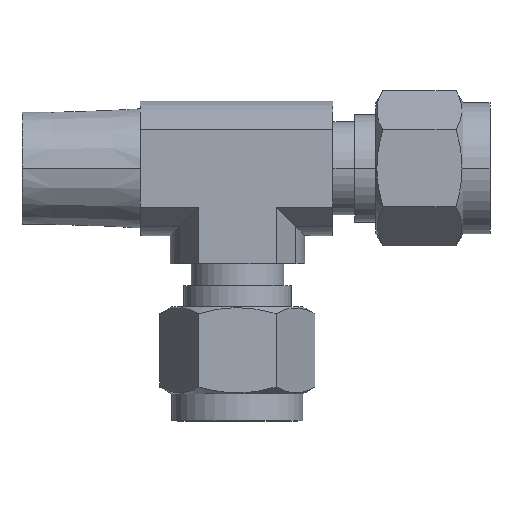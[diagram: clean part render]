
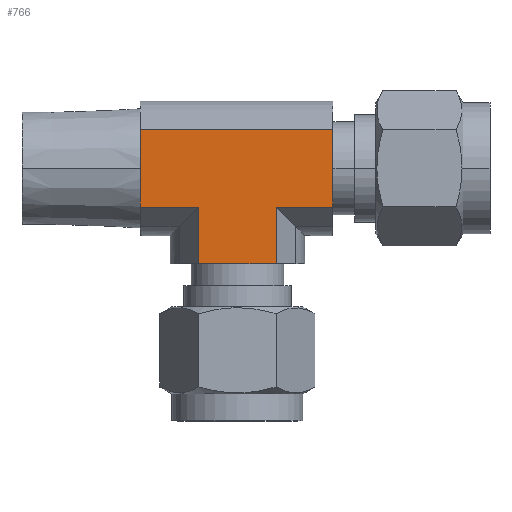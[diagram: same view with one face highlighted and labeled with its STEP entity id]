
A CAD part, top view. The second image highlights one B-rep face of the part: STEP entity #766.
In plain terms, the highlighted planar face has unit normal (0, 0, 1).
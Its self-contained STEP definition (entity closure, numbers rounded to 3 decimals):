
#285 = EDGE_CURVE ( 'NONE', #302, #286, #2358, .T. ) ;
#286 = VERTEX_POINT ( 'NONE', #2579 ) ;
#302 = VERTEX_POINT ( 'NONE', #2555 ) ;
#360 = EDGE_CURVE ( 'NONE', #286, #707, #1368, .T. ) ;
#365 = VERTEX_POINT ( 'NONE', #1492 ) ;
#398 = VERTEX_POINT ( 'NONE', #1522 ) ;
#400 = EDGE_CURVE ( 'NONE', #398, #483, #1521, .T. ) ;
#431 = VERTEX_POINT ( 'NONE', #1798 ) ;
#433 = EDGE_CURVE ( 'NONE', #431, #434, #1797, .T. ) ;
#434 = VERTEX_POINT ( 'NONE', #1793 ) ;
#483 = VERTEX_POINT ( 'NONE', #1819 ) ;
#595 = ORIENTED_EDGE ( 'NONE', *, *, #433, .F. ) ;
#596 = ORIENTED_EDGE ( 'NONE', *, *, #597, .T. ) ;
#597 = EDGE_CURVE ( 'NONE', #431, #707, #2039, .T. ) ;
#599 = EDGE_CURVE ( 'NONE', #365, #398, #2035, .T. ) ;
#707 = VERTEX_POINT ( 'NONE', #1924 ) ;
#764 = EDGE_CURVE ( 'NONE', #302, #483, #2135, .T. ) ;
#766 = ADVANCED_FACE ( 'NONE', ( #2131 ), #2129, .F. ) ;
#767 = EDGE_LOOP ( 'NONE', ( #768, #769, #595, #596, #771, #772, #773, #774 ) ) ;
#768 = ORIENTED_EDGE ( 'NONE', *, *, #599, .F. ) ;
#769 = ORIENTED_EDGE ( 'NONE', *, *, #770, .F. ) ;
#770 = EDGE_CURVE ( 'NONE', #434, #365, #2130, .T. ) ;
#771 = ORIENTED_EDGE ( 'NONE', *, *, #360, .F. ) ;
#772 = ORIENTED_EDGE ( 'NONE', *, *, #285, .F. ) ;
#773 = ORIENTED_EDGE ( 'NONE', *, *, #764, .T. ) ;
#774 = ORIENTED_EDGE ( 'NONE', *, *, #400, .F. ) ;
#1360 = DIRECTION ( 'NONE',  ( -1., 0., 0. ) ) ;
#1361 = VECTOR ( 'NONE', #1360, 1000. ) ;
#1362 = CARTESIAN_POINT ( 'NONE',  ( 11.3, -4.59, 7.95 ) ) ;
#1368 = LINE ( 'NONE', #1362, #1361 ) ;
#1492 = CARTESIAN_POINT ( 'NONE',  ( -4.59, -4.59, 7.95 ) ) ;
#1518 = DIRECTION ( 'NONE',  ( 0., 1., 0. ) ) ;
#1519 = VECTOR ( 'NONE', #1518, 1000. ) ;
#1520 = CARTESIAN_POINT ( 'NONE',  ( -11.5, -4.59, 7.95 ) ) ;
#1521 = LINE ( 'NONE', #1520, #1519 ) ;
#1522 = CARTESIAN_POINT ( 'NONE',  ( -11.5, -4.59, 7.95 ) ) ;
#1793 = CARTESIAN_POINT ( 'NONE',  ( -4.59, -11.3, 7.95 ) ) ;
#1794 = DIRECTION ( 'NONE',  ( -1., 0., 0. ) ) ;
#1795 = VECTOR ( 'NONE', #1794, 1000. ) ;
#1796 = CARTESIAN_POINT ( 'NONE',  ( 4.59, -11.3, 7.95 ) ) ;
#1797 = LINE ( 'NONE', #1796, #1795 ) ;
#1798 = CARTESIAN_POINT ( 'NONE',  ( 4.59, -11.3, 7.95 ) ) ;
#1819 = CARTESIAN_POINT ( 'NONE',  ( -11.5, 4.59, 7.95 ) ) ;
#1924 = CARTESIAN_POINT ( 'NONE',  ( 4.59, -4.59, 7.95 ) ) ;
#2032 = DIRECTION ( 'NONE',  ( -1., 0., 0. ) ) ;
#2033 = VECTOR ( 'NONE', #2032, 1000. ) ;
#2034 = CARTESIAN_POINT ( 'NONE',  ( 11.3, -4.59, 7.95 ) ) ;
#2035 = LINE ( 'NONE', #2034, #2033 ) ;
#2036 = DIRECTION ( 'NONE',  ( 0., 1., 0. ) ) ;
#2037 = VECTOR ( 'NONE', #2036, 1000. ) ;
#2038 = CARTESIAN_POINT ( 'NONE',  ( 4.59, -11.3, 7.95 ) ) ;
#2039 = LINE ( 'NONE', #2038, #2037 ) ;
#2122 = DIRECTION ( 'NONE',  ( 0., 1., 0. ) ) ;
#2123 = VECTOR ( 'NONE', #2122, 1000. ) ;
#2124 = CARTESIAN_POINT ( 'NONE',  ( -4.59, -11.3, 7.95 ) ) ;
#2125 = DIRECTION ( 'NONE',  ( 0., 1., 0. ) ) ;
#2126 = DIRECTION ( 'NONE',  ( 0., 0., -1. ) ) ;
#2127 = CARTESIAN_POINT ( 'NONE',  ( 11.3, 4.59, 7.95 ) ) ;
#2128 = AXIS2_PLACEMENT_3D ( 'NONE', #2127, #2126, #2125 ) ;
#2129 = PLANE ( 'NONE',  #2128 ) ;
#2130 = LINE ( 'NONE', #2124, #2123 ) ;
#2131 = FACE_OUTER_BOUND ( 'NONE', #767, .T. ) ;
#2132 = DIRECTION ( 'NONE',  ( -1., 0., 0. ) ) ;
#2133 = VECTOR ( 'NONE', #2132, 1000. ) ;
#2134 = CARTESIAN_POINT ( 'NONE',  ( 11.3, 4.59, 7.95 ) ) ;
#2135 = LINE ( 'NONE', #2134, #2133 ) ;
#2356 = VECTOR ( 'NONE', #2580, 1000. ) ;
#2357 = CARTESIAN_POINT ( 'NONE',  ( 11.3, 4.59, 7.95 ) ) ;
#2358 = LINE ( 'NONE', #2357, #2356 ) ;
#2555 = CARTESIAN_POINT ( 'NONE',  ( 11.3, 4.59, 7.95 ) ) ;
#2579 = CARTESIAN_POINT ( 'NONE',  ( 11.3, -4.59, 7.95 ) ) ;
#2580 = DIRECTION ( 'NONE',  ( 0., -1., 0. ) ) ;
